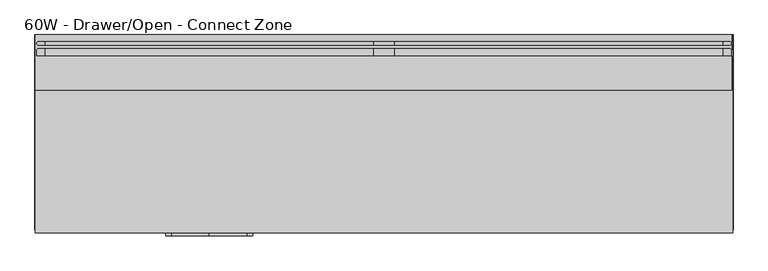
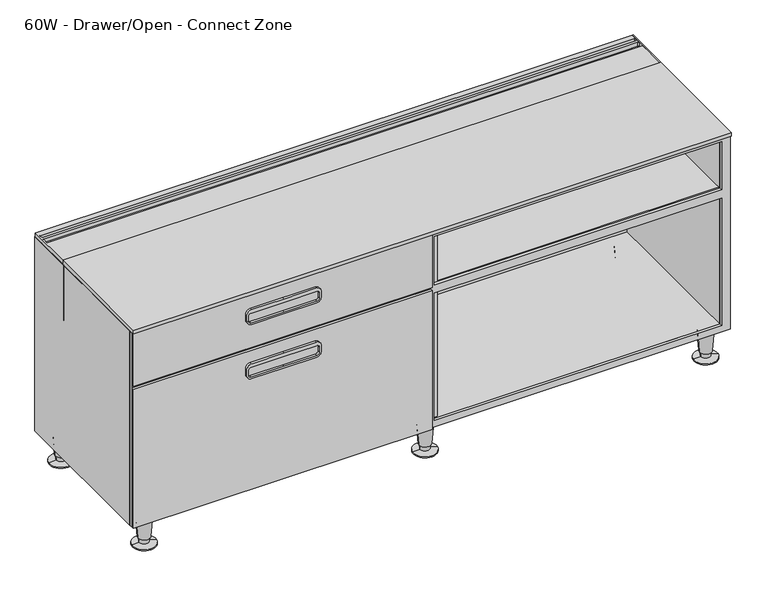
"""IFC4 building model written with IfcOpenShell, lengths in millimetres: furniture geometry, Steelcase - C Scape - Low Storage - 1.5 High - 60W and 72W : 60W - Drawer/Open - Connect Zone."""

from ifc_helpers import new_model, si_unit, point, frame, frame_2d, origin, place, context, project, spatial, polyline, circle_curve, trimmed, segment, composite_curve, outline, extrude, faceted_brep, source, transform, mapped, element, save
from ifc_brep_helpers import plane_surface, cylinder_surface, revolved_surface, advanced_brep


def furniture_60w_drawer_open_connect_zone_89e34813(model_context):
    return source(origin(), model_context, "Body", "SolidModel", [
        advanced_brep(
        [(-302.0173728, -29.5783496, 599.4426137), (-302.0173728, -29.5783496, 458.7801967), (-302.0173728, -9.5194193, 458.7801967), (-302.0173728, -9.5194193, 466.2604814), (-302.0173728, 0.0055807, 466.2604814), (-302.0173728, 0.0055807, 599.4426137), (-302.0173728, -17.0388453, 599.4426137), (-302.0173728, -17.0388453, 609.5926846), (-302.0173728, -20.5059237, 609.5926846), (-302.0173728, -20.5059237, 599.4426137), (-302.0173728, -46.4703418, 599.4426137), (-302.0173728, -32.0458511, 599.4426137), (-302.0173728, -32.0458511, 609.5926846), (-302.0173728, -46.4703418, 609.5926846), (-304.8013237, -120.6444193, 599.4426137), (-304.8013237, -120.6444193, 609.5926846), (-304.8013237, 0.0055807, 609.5926846), (-304.8013237, 0.0055807, 466.2604814), (-304.8013237, -9.5194193, 466.2604814), (-304.8013237, -9.5194193, 458.7801967), (-304.8013237, -29.5783496, 458.7801967), (-304.8013237, -29.5783496, 599.4426137), (-299.2329352, -23.2903613, 599.4426137), (1212.1507358, -23.2903613, 599.4426137), (1215.1272317, -20.3138654, 599.4426137), (1215.1473728, -32.274699, 599.4426137), (1212.4308823, -29.5783496, 599.4426137), (-299.5498713, -29.5783496, 599.4426137), (1215.1473728, -46.4703418, 599.4426137), (1215.1473728, -120.5681445, 599.4426137), (-299.3205978, -14.3420703, 599.4426137), (1215.1473728, 0.0, 599.4426137), (1215.1473728, -17.0388453, 599.4426137), (1212.4505978, -14.3420703, 599.4426137), (1215.1473728, 0.0055807, 609.5926846), (1215.1473728, -120.5681445, 609.5926846), (1215.1473728, -46.4703418, 609.5926846), (-299.5498713, -29.5783496, 609.5926846), (1212.4308823, -29.5783496, 609.5926846), (1215.1272317, -32.274699, 609.5926846), (1215.1473728, -20.3138654, 609.5926846), (1212.1507358, -23.2903613, 609.5926846), (-299.2329352, -23.2903613, 609.5926846), (-299.3205978, -14.3420703, 609.5926846), (1212.4505978, -14.3420703, 609.5926846), (1215.1473728, -17.0388453, 609.5926846)],
        [
            (0, 1),
            (1, 2),
            (2, 3),
            (3, 4),
            (4, 5),
            (5, 6),
            (6, 7),
            (7, 8),
            (8, 9),
            (9, 0),
            (10, 11),
            (11, 12),
            (12, 13),
            (13, 10),
            (14, 15),
            (15, 16),
            (16, 17),
            (17, 18),
            (18, 19),
            (19, 20),
            (20, 21),
            (21, 14),
            (21, 0),
            (9, 22, circle_curve(frame((-299.2329352, -20.5059237, 599.4426137), z_axis=(0.0, 0.0, 1.0), x_axis=(1.0, 0.0, 0.0)), 2.7844376)),
            (22, 23),
            (23, 24, circle_curve(frame((1212.1507358, -20.3138654, 599.4426137), z_axis=(0.0, 0.0, 1.0), x_axis=(1.0, 0.0, 0.0)), 2.9764959)),
            (24, 25),
            (25, 26, circle_curve(frame((1212.4308823, -32.274699, 599.4426137), z_axis=(0.0, 0.0, 1.0), x_axis=(1.0, 0.0, 0.0)), 2.6963494)),
            (26, 27),
            (27, 11, circle_curve(frame((-299.5498713, -32.0458511, 599.4426137), z_axis=(0.0, 0.0, 1.0), x_axis=(1.0, 0.0, 0.0)), 2.4675015)),
            (10, 28),
            (28, 29),
            (29, 14),
            (30, 6, circle_curve(frame((-299.3205978, -17.0388453, 599.4426137), z_axis=(0.0, 0.0, 1.0), x_axis=(1.0, 0.0, 0.0)), 2.696775)),
            (5, 31),
            (31, 32),
            (32, 33, circle_curve(frame((1212.4505978, -17.0388453, 599.4426137), z_axis=(0.0, 0.0, 1.0), x_axis=(1.0, 0.0, 0.0)), 2.696775)),
            (33, 30),
            (20, 1),
            (19, 2),
            (18, 3),
            (17, 4),
            (16, 34),
            (34, 31),
            (15, 35),
            (35, 36),
            (36, 13),
            (12, 37, circle_curve(frame((-299.5498713, -32.0458511, 609.5926846), z_axis=(0.0, 0.0, -1.0), x_axis=(1.0, 0.0, 0.0)), 2.4675015)),
            (37, 38),
            (38, 39, circle_curve(frame((1212.4308823, -32.274699, 609.5926846), z_axis=(0.0, 0.0, -1.0), x_axis=(1.0, 0.0, 0.0)), 2.6963494)),
            (39, 40),
            (40, 41, circle_curve(frame((1212.1507358, -20.3138654, 609.5926846), z_axis=(0.0, 0.0, -1.0), x_axis=(1.0, 0.0, 0.0)), 2.9764959)),
            (41, 42),
            (42, 8, circle_curve(frame((-299.2329352, -20.5059237, 609.5926846), z_axis=(0.0, 0.0, -1.0), x_axis=(1.0, 0.0, 0.0)), 2.7844376)),
            (7, 43, circle_curve(frame((-299.3205978, -17.0388453, 609.5926846), z_axis=(0.0, 0.0, -1.0), x_axis=(1.0, 0.0, 0.0)), 2.696775)),
            (43, 44),
            (44, 45, circle_curve(frame((1212.4505978, -17.0388453, 609.5926846), z_axis=(0.0, 0.0, -1.0), x_axis=(1.0, 0.0, 0.0)), 2.696775)),
            (45, 34),
            (29, 35),
            (38, 26),
            (25, 39),
            (24, 40),
            (23, 41),
            (22, 42),
            (27, 37),
            (36, 28),
            (43, 30),
            (33, 44),
            (32, 45),
        ],
        [
            plane_surface(frame((-302.0173728, -120.6444193, 599.4426137), z_axis=(1.0, 0.0, 0.0), x_axis=(0.0, 1.0, 0.0))),
            plane_surface(frame((-304.8013237, -120.6444193, 599.4426137), z_axis=(-1.0, 0.0, 0.0), x_axis=(0.0, -1.0, 0.0))),
            plane_surface(frame((-302.0173728, -120.6444193, 599.4426137), z_axis=(0.0, 0.0, -1.0), x_axis=(-1.0, 0.0, 0.0))),
            plane_surface(frame((-302.0173728, -29.5783496, 599.4426137), z_axis=(0.0, -1.0, 0.0), x_axis=(-1.0, 0.0, 0.0))),
            plane_surface(frame((-302.0173728, -29.5783496, 458.7801967), z_axis=(0.0, 0.0, -1.0), x_axis=(-1.0, 0.0, 0.0))),
            plane_surface(frame((-302.0173728, -9.5194193, 458.7801967), z_axis=(0.0, 1.0, 0.0), x_axis=(-1.0, 0.0, 0.0))),
            plane_surface(frame((-302.0173728, -9.5194193, 466.2604814), z_axis=(0.0, 0.0, -1.0), x_axis=(-1.0, 0.0, 0.0))),
            plane_surface(frame((-302.0173728, 0.0055807, 466.2604814), z_axis=(0.0, 1.0, 0.0), x_axis=(-1.0, 0.0, 0.0))),
            plane_surface(frame((-302.0173728, 0.0055807, 609.5926846), z_axis=(0.0, 0.0, 1.0), x_axis=(-1.0, 0.0, 0.0))),
            plane_surface(frame((-302.0173728, -120.6444193, 609.5926846), z_axis=(0.0, -1.0, 0.0), x_axis=(-1.0, 0.0, 0.0))),
            revolved_surface(polyline([(1215.1272316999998, -32.274699, 599.4426137), (1215.1272316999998, -32.274699, 609.5926846)]), (1212.4308823, -32.274699, 599.4426137), (0.0, 0.0, -1.0)),
            plane_surface(frame((1215.1473728, -32.274699, 609.5926846), z_axis=(1.0, 0.0, 0.0), x_axis=(0.0, 0.0, -1.0))),
            revolved_surface(polyline([(1215.1272316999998, -20.3138654, 599.4426137), (1215.1272316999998, -20.3138654, 609.5926846)]), (1212.1507358, -20.3138654, 599.4426137), (0.0, 0.0, -1.0)),
            plane_surface(frame((1212.1507358, -23.2903613, 609.5926846), z_axis=(0.0, 1.0, 0.0), x_axis=(0.0, 0.0, -1.0))),
            revolved_surface(polyline([(-296.4484976, -20.5059237, 599.4426137), (-296.4484976, -20.5059237, 609.5926846)]), (-299.2329352, -20.5059237, 599.4426137), (0.0, 0.0, -1.0)),
            revolved_surface(polyline([(-297.0823698, -32.0458511, 599.4426137), (-297.0823698, -32.0458511, 609.5926846)]), (-299.5498713, -32.0458511, 599.4426137), (0.0, 0.0, -1.0)),
            plane_surface(frame((-299.5498713, -29.5783496, 609.5926846), z_axis=(0.0, -1.0, 0.0), x_axis=(0.0, 0.0, -1.0))),
            plane_surface(frame((1215.1473728, -46.4703418, 609.5926846), z_axis=(0.0, 1.0, 0.0), x_axis=(0.0, 0.0, -1.0))),
            plane_surface(frame((1215.1473728, -120.5681445, 609.5926846), z_axis=(1.0, 0.0, 0.0), x_axis=(0.0, 0.0, -1.0))),
            plane_surface(frame((-299.3205978, -14.3420703, 609.5926846), z_axis=(0.0, -1.0, 0.0), x_axis=(0.0, 0.0, -1.0))),
            revolved_surface(polyline([(1215.1473727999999, -17.0388453, 599.4426137), (1215.1473727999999, -17.0388453, 609.5926846)]), (1212.4505978, -17.0388453, 41.6222656), (0.0, 0.0, -1.0)),
            plane_surface(frame((1215.1473728, -17.0388453, 609.5926846), z_axis=(1.0, 0.0, 0.0), x_axis=(0.0, 0.0, -1.0))),
            revolved_surface(polyline([(-296.62382279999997, -17.0388453, 599.4426137), (-296.62382279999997, -17.0388453, 609.5926846)]), (-299.3205978, -17.0388453, 41.6222656), (0.0, 0.0, -1.0)),
        ],
        [
            (0, [[1, 2, 3, 4, 5, 6, 7, 8, 9, 10]]),
            (0, [[11, 12, 13, 14]]),
            (1, [[15, 16, 17, 18, 19, 20, 21, 22]]),
            (2, [[-22, 23, -10, 24, 25, 26, 27, 28, 29, 30, -11, 31, 32, 33]]),
            (2, [[34, -6, 35, 36, 37, 38]]),
            (3, [[-1, -23, -21, 39]]),
            (4, [[-2, -39, -20, 40]]),
            (5, [[-3, -40, -19, 41]]),
            (6, [[-4, -41, -18, 42]]),
            (7, [[-17, 43, 44, -35, -5, -42]]),
            (8, [[-43, -16, 45, 46, 47, -13, 48, 49, 50, 51, 52, 53, 54, -8, 55, 56, 57, 58]]),
            (9, [[-45, -15, -33, 59]]),
            (10, [[-50, 60, -28, 61]]),
            (11, [[-51, -61, -27, 62]]),
            (12, [[-52, -62, -26, 63]]),
            (13, [[-53, -63, -25, 64]]),
            (14, [[-54, -64, -24, -9]]),
            (15, [[-48, -12, -30, 65]]),
            (16, [[-49, -65, -29, -60]]),
            (17, [[-47, 66, -31, -14]]),
            (18, [[-46, -59, -32, -66]]),
            (19, [[-56, 67, -38, 68]]),
            (20, [[-57, -68, -37, 69]]),
            (21, [[-58, -69, -36, -44]]),
            (22, [[-55, -7, -34, -67]]),
        ],
    ),
        extrude(outline(polyline([(458.7240097, 572.1950189), (432.6382043, 572.1950189), (432.6382043, 449.8975), (432.6382043, 340.9349811), (458.7240097, 340.9349811), (458.7240097, -304.8013237), (92.7100024, -304.8013237), (92.7100024, 1217.93), (458.7240097, 1217.93), (458.7240097, 572.1950189)])), frame((0.0, -9.5194193, 0.0), z_axis=(0.0, 1.0, 0.0), x_axis=(0.0, 0.0, 1.0)), (0.0, 0.0, 1.0), 9.525),
        extrude(outline(polyline([(-120.6444193, 609.6), (-120.6444193, 450.8499879), (-126.9863574, 450.8499879), (-126.9863574, 599.4499291), (-433.07, 599.4499291), (-433.07, 609.6), (-120.6444193, 609.6)])), frame((-304.8013237, 0.0, 0.0), z_axis=(1.0, 0.0, 0.0), x_axis=(0.0, 1.0, 0.0)), (0.0, 0.0, 1.0), 1522.7313237),
        extrude(outline(polyline([(-120.6444193, 599.4426137), (-120.6444193, 609.5926846), (0.0055807, 609.5926846), (0.0055807, 466.2604814), (-9.5194193, 466.2604814), (-9.5194193, 458.7801967), (-29.5783496, 458.7801967), (-29.5783496, 599.4426137), (-120.6444193, 599.4426137)])), frame((1215.1473728, 0.0, 0.0), z_axis=(1.0, 0.0, 0.0), x_axis=(0.0, 1.0, 0.0)), (0.0, 0.0, 1.0), 2.7826272),
        extrude(outline(polyline([(76.1508625, -305.435), (76.1508625, 1218.565), (599.4400097, 1218.565), (599.4400097, 457.132594), (599.4400097, -305.435), (76.1508625, -305.435)]), holes=[polyline([(92.7100024, 447.6410976), (92.7100024, -283.4617676), (436.8800097, -283.4617676), (436.8800097, 447.6410976), (92.7100024, 447.6410976)]), polyline([(588.9625, -283.4617676), (588.9625, 447.6410976), (458.7240097, 447.6410976), (458.7240097, -283.4617676), (588.9625, -283.4617676)]), polyline([(436.8800097, 465.4889024), (436.8800097, 1196.5917676), (92.7100024, 1196.5917676), (92.7100024, 465.4889024), (436.8800097, 465.4889024)]), polyline([(588.9625, 1196.5917676), (458.7240097, 1196.5917676), (458.7240097, 465.4889024), (588.9625, 465.4889024), (588.9625, 1196.5917676)])]), frame((0.0, -426.7186111, 0.0), z_axis=(0.0, 1.0, 0.0), x_axis=(0.0, 0.0, 1.0)), (0.0, 0.0, 1.0), 7.3648883),
        extrude(outline(polyline([(1218.565, 0.0), (1218.565, -419.3537227), (1196.5917676, -419.3537227), (1196.5917676, 0.0), (1218.565, 0.0)])), frame((0.0, 0.0, 76.2), z_axis=(0.0, 0.0, 1.0), x_axis=(1.0, 0.0, 0.0)), (0.0, 0.0, 1.0), 523.2400097),
        extrude(outline(polyline([(-283.4630912, -419.3537227), (-305.435, -419.3537227), (-305.435, 0.0), (-283.4630912, 0.0), (-283.4630912, -419.3537227)])), frame((0.0, 0.0, 76.2), z_axis=(0.0, 0.0, 1.0), x_axis=(1.0, 0.0, 0.0)), (0.0, 0.0, 1.0), 523.2400097),
        extrude(outline(polyline([(434.0224874, -415.2912402), (434.0224874, -9.525), (479.1075126, -9.525), (479.1075126, -415.2912402), (434.0224874, -415.2912402)])), frame((0.0, 0.0, 76.2), z_axis=(0.0, 0.0, 1.0), x_axis=(1.0, 0.0, 0.0)), (0.0, 0.0, 1.0), 523.2400097),
        extrude(outline(polyline([(479.1075126, -9.525), (1196.5917676, -9.525), (1196.5917676, -415.2912402), (479.1075126, -415.2912402), (479.1075126, -9.525)])), frame((0.0, 0.0, 436.8800097), z_axis=(0.0, 0.0, 1.0), x_axis=(1.0, 0.0, 0.0)), (0.0, 0.0, 1.0), 21.844),
        extrude(outline(polyline([(434.0224874, -415.2912402), (-283.4617676, -415.2912402), (-283.4617676, -9.525), (434.0224874, -9.525), (434.0224874, -415.2912402)])), frame((0.0, 0.0, 436.8800097), z_axis=(0.0, 0.0, 1.0), x_axis=(1.0, 0.0, 0.0)), (0.0, 0.0, 1.0), 21.844),
        extrude(outline(composite_curve([segment(polyline([(419.0999879, 157.4804108), (419.0999879, 75.247655), (419.0999879, -6.9851007)]), True, "CONTINUOUS"), segment(trimmed(circle_curve(frame_2d((406.3999879, -6.9851007)), 12.7), [point((419.0999879, -6.9851007))], [point((406.3999879, -19.6851007))], False, "CARTESIAN"), True, "CONTINUOUS"), segment(polyline([(406.3999879, -19.6851007), (391.795017, -19.6851007)]), True, "CONTINUOUS"), segment(trimmed(circle_curve(frame_2d((391.795017, -6.9851007)), 12.7), [point((391.795017, -19.6851007))], [point((379.095017, -6.9851007))], False, "CARTESIAN"), True, "CONTINUOUS"), segment(polyline([(379.095017, -6.9851007), (379.095017, 75.247655), (379.095017, 157.4804108)]), True, "CONTINUOUS"), segment(trimmed(circle_curve(frame_2d((391.795017, 157.4804108)), 12.7), [point((379.095017, 157.4804108))], [point((391.795017, 170.1804108))], False, "CARTESIAN"), True, "CONTINUOUS"), segment(polyline([(391.795017, 170.1804108), (406.3999879, 170.1804108)]), True, "CONTINUOUS"), segment(trimmed(circle_curve(frame_2d((406.3999879, 157.4804108)), 12.7), [point((406.3999879, 170.1804108))], [point((419.0999879, 157.4804108))], False, "CARTESIAN"), True, "CONTINUOUS")], self_intersect=False), holes=[composite_curve([segment(polyline([(402.9710063, 165.3527985), (390.2709942, 165.3527985)]), True, "CONTINUOUS"), segment(trimmed(circle_curve(frame_2d((390.2709942, 159.0027985)), 6.35), [point((390.2709942, 165.3527985))], [point((383.9209942, 159.0027985))], True, "CARTESIAN"), True, "CONTINUOUS"), segment(polyline([(383.9209942, 159.0027985), (383.9209942, 75.247655), (383.9209942, -8.5074884)]), True, "CONTINUOUS"), segment(trimmed(circle_curve(frame_2d((390.2709942, -8.5074884)), 6.35), [point((383.9209942, -8.5074884))], [point((390.2709942, -14.8574884))], True, "CARTESIAN"), True, "CONTINUOUS"), segment(polyline([(390.2709942, -14.8574884), (402.9710063, -14.8574884)]), True, "CONTINUOUS"), segment(trimmed(circle_curve(frame_2d((402.9710063, -8.5074884)), 6.35), [point((402.9710063, -14.8574884))], [point((409.3210063, -8.5074884))], True, "CARTESIAN"), True, "CONTINUOUS"), segment(polyline([(409.3210063, -8.5074884), (409.3210063, 75.247655), (409.3210063, 159.0027985)]), True, "CONTINUOUS"), segment(trimmed(circle_curve(frame_2d((402.9710063, 159.0027985)), 6.35), [point((409.3210063, 159.0027985))], [point((402.9710063, 165.3527985))], True, "CARTESIAN"), True, "CONTINUOUS")], self_intersect=False)]), frame((0.0, -439.42, 0.0), z_axis=(0.0, 1.0, 0.0), x_axis=(0.0, 0.0, 1.0)), (0.0, 0.0, 1.0), 6.35),
        extrude(outline(polyline([(455.9303101, -426.7186111), (455.9303101, -433.07), (-304.8, -433.07), (-304.8, -426.7186111), (455.9303101, -426.7186111)])), frame((0.0, 0.0, 458.7240097), z_axis=(0.0, 0.0, 1.0), x_axis=(1.0, 0.0, 0.0)), (0.0, 0.0, 1.0), 140.716),
        faceted_brep([(-283.4617676, -419.3537227, 92.7100024), (1196.5917676, -419.3537227, 92.7100024), (1196.5917676, -9.525, 92.7100024), (479.1075126, -9.525, 92.7100024), (479.1075126, -415.2912402, 92.7100024), (434.0224874, -415.2912402, 92.7100024), (434.0224874, -9.525, 92.7100024), (-283.4617676, -9.525, 92.7100024), (1218.565, 0.0, 76.2), (1218.565, -419.3537227, 76.2), (-305.435, -419.3537227, 76.2), (-305.435, 0.0, 76.2), (-283.4630912, -419.3537227, 599.4400097), (-305.435, -419.3537227, 599.4400097), (1218.565, -419.3537227, 599.4400097), (1196.5917676, -419.3537227, 599.4400097), (-305.435, 0.0, 599.4400097), (1218.565, 0.0, 599.4400097), (-283.4630912, -9.525, 599.4400097), (434.0224874, -9.525, 599.4400097), (434.0224874, -415.2912402, 599.4400097), (479.1075126, -415.2912402, 599.4400097), (479.1075126, -9.525, 599.4400097), (1196.5917676, -9.525, 599.4400097)], [[[0, 1, 2, 3, 4, 5, 6, 7]], [[8, 9, 10, 11]], [[1, 0, 12, 13, 10, 9, 14, 15]], [[8, 11, 16, 17]], [[16, 13, 12, 18, 19, 20, 21, 22, 23, 15, 14, 17]], [[13, 16, 11, 10]], [[18, 12, 0, 7]], [[19, 18, 7, 6]], [[20, 19, 6, 5]], [[22, 21, 4, 3]], [[23, 22, 3, 2]], [[15, 23, 2, 1]], [[17, 14, 9, 8]], [[21, 20, 5, 4]]]),
        extrude(outline(composite_curve([segment(polyline([(565.1499879, 157.4804108), (565.1499879, 75.247655), (565.1499879, -6.9851007)]), True, "CONTINUOUS"), segment(trimmed(circle_curve(frame_2d((552.4499879, -6.9851007)), 12.7), [point((565.1499879, -6.9851007))], [point((552.4499879, -19.6851007))], False, "CARTESIAN"), True, "CONTINUOUS"), segment(polyline([(552.4499879, -19.6851007), (537.845017, -19.6851007)]), True, "CONTINUOUS"), segment(trimmed(circle_curve(frame_2d((537.845017, -6.9851007)), 12.7), [point((537.845017, -19.6851007))], [point((525.145017, -6.9851007))], False, "CARTESIAN"), True, "CONTINUOUS"), segment(polyline([(525.145017, -6.9851007), (525.145017, 75.247655), (525.145017, 157.4804108)]), True, "CONTINUOUS"), segment(trimmed(circle_curve(frame_2d((537.845017, 157.4804108)), 12.7), [point((525.145017, 157.4804108))], [point((537.845017, 170.1804108))], False, "CARTESIAN"), True, "CONTINUOUS"), segment(polyline([(537.845017, 170.1804108), (552.4499879, 170.1804108)]), True, "CONTINUOUS"), segment(trimmed(circle_curve(frame_2d((552.4499879, 157.4804108)), 12.7), [point((552.4499879, 170.1804108))], [point((565.1499879, 157.4804108))], False, "CARTESIAN"), True, "CONTINUOUS")], self_intersect=False), holes=[composite_curve([segment(polyline([(549.0210063, 165.3527985), (536.3209942, 165.3527985)]), True, "CONTINUOUS"), segment(trimmed(circle_curve(frame_2d((536.3209942, 159.0027985)), 6.35), [point((536.3209942, 165.3527985))], [point((529.9709942, 159.0027985))], True, "CARTESIAN"), True, "CONTINUOUS"), segment(polyline([(529.9709942, 159.0027985), (529.9709942, 75.247655), (529.9709942, -8.5074884)]), True, "CONTINUOUS"), segment(trimmed(circle_curve(frame_2d((536.3209942, -8.5074884)), 6.35), [point((529.9709942, -8.5074884))], [point((536.3209942, -14.8574884))], True, "CARTESIAN"), True, "CONTINUOUS"), segment(polyline([(536.3209942, -14.8574884), (549.0210063, -14.8574884)]), True, "CONTINUOUS"), segment(trimmed(circle_curve(frame_2d((549.0210063, -8.5074884)), 6.35), [point((549.0210063, -14.8574884))], [point((555.3710063, -8.5074884))], True, "CARTESIAN"), True, "CONTINUOUS"), segment(polyline([(555.3710063, -8.5074884), (555.3710063, 75.247655), (555.3710063, 159.0027985)]), True, "CONTINUOUS"), segment(trimmed(circle_curve(frame_2d((549.0210063, 159.0027985)), 6.35), [point((555.3710063, 159.0027985))], [point((549.0210063, 165.3527985))], True, "CARTESIAN"), True, "CONTINUOUS")], self_intersect=False)]), frame((0.0, -439.42, 0.0), z_axis=(0.0, 1.0, 0.0), x_axis=(0.0, 0.0, 1.0)), (0.0, 0.0, 1.0), 6.35),
        extrude(outline(polyline([(455.9303101, -426.7186111), (455.9303101, -433.07), (-304.8, -433.07), (-304.8, -426.7186111), (455.9303101, -426.7186111)])), frame((0.0, 0.0, 76.2), z_axis=(0.0, 0.0, 1.0), x_axis=(1.0, 0.0, 0.0)), (0.0, 0.0, 1.0), 374.6500097),
        advanced_brep(
        [(427.4539515, -29.9489775, 0.0), (485.6760485, -38.8569507, 0.0), (456.565, -34.4029641, 0.0), (427.4539515, -29.9489775, 2.5119506), (485.6760485, -38.8569507, 2.5119506), (444.802835, -32.6033544, 5.7545598), (468.327165, -36.2025738, 5.7545598), (444.1140655, -32.4979728, 19.05), (469.0159345, -36.3079555, 19.05), (441.6844786, -32.1262463, 19.05), (471.4455214, -36.6796819, 19.05), (437.7341305, -31.5218435, 76.2), (475.3958695, -37.2840847, 76.2), (456.565, -34.4029641, 76.2)],
        [
            (0, 1, circle_curve(frame((456.565, -34.4029641, 0.0), z_axis=(0.0, 0.0, -1.0), x_axis=(0.0, -1.0, 0.0)), 29.4498071)),
            (1, 2),
            (2, 0),
            (1, 0, circle_curve(frame((456.565, -34.4029641, 0.0), z_axis=(0.0, 0.0, -1.0), x_axis=(0.0, -1.0, 0.0)), 29.4498071)),
            (3, 4, circle_curve(frame((456.565, -34.4029641, 2.5119506), z_axis=(0.0, 0.0, -1.0), x_axis=(0.0, -1.0, 0.0)), 29.4498071)),
            (4, 1),
            (0, 3),
            (4, 3, circle_curve(frame((456.565, -34.4029641, 2.5119506), z_axis=(0.0, 0.0, -1.0), x_axis=(0.0, -1.0, 0.0)), 29.4498071)),
            (5, 6, circle_curve(frame((456.565, -34.4029641, 5.7545598), z_axis=(0.0, 0.0, -1.0), x_axis=(0.0, -1.0, 0.0)), 11.8990387)),
            (6, 4),
            (3, 5),
            (6, 5, circle_curve(frame((456.565, -34.4029641, 5.7545598), z_axis=(0.0, 0.0, -1.0), x_axis=(0.0, -1.0, 0.0)), 11.8990387)),
            (7, 8, circle_curve(frame((456.565, -34.4029641, 19.05), z_axis=(0.0, 0.0, -1.0), x_axis=(0.0, -1.0, 0.0)), 12.5958232)),
            (8, 6),
            (5, 7),
            (8, 7, circle_curve(frame((456.565, -34.4029641, 19.05), z_axis=(0.0, 0.0, -1.0), x_axis=(0.0, -1.0, 0.0)), 12.5958232)),
            (9, 10, circle_curve(frame((456.565, -34.4029641, 19.05), z_axis=(0.0, 0.0, -1.0), x_axis=(0.0, -1.0, 0.0)), 15.0536827)),
            (10, 8),
            (7, 9),
            (10, 9, circle_curve(frame((456.565, -34.4029641, 19.05), z_axis=(0.0, 0.0, -1.0), x_axis=(0.0, -1.0, 0.0)), 15.0536827)),
            (11, 12, circle_curve(frame((456.565, -34.4029641, 76.2), z_axis=(0.0, 0.0, -1.0), x_axis=(0.0, -1.0, 0.0)), 19.05)),
            (12, 10),
            (9, 11),
            (12, 11, circle_curve(frame((456.565, -34.4029641, 76.2), z_axis=(0.0, 0.0, -1.0), x_axis=(0.0, -1.0, 0.0)), 19.05)),
            (13, 12),
            (11, 13),
        ],
        [
            plane_surface(frame((456.565, -34.4029641, 0.0), z_axis=(0.0, 0.0, -1.0), x_axis=(0.0, -1.0, 0.0))),
            cylinder_surface(frame((456.565, -34.4029641, 25.4), z_axis=(0.0, 0.0, 1.0), x_axis=(0.0, -1.0, 0.0)), 29.4498071),
            revolved_surface(polyline([(456.565, -63.8527712, 2.5119506), (456.565, -46.3020028, 5.7545598)]), (456.565, -34.4029641, 25.4), (0.0, 0.0, 1.0)),
            revolved_surface(polyline([(456.565, -46.3020028, 5.7545598), (456.565, -46.9987873, 19.05)]), (456.565, -34.4029641, 25.4), (0.0, 0.0, 1.0)),
            plane_surface(frame((456.565, -34.4029641, 19.05), z_axis=(0.0, 0.0, -1.0), x_axis=(0.0, -1.0, 0.0))),
            revolved_surface(polyline([(456.565, -49.4566468, 19.05), (456.565, -53.4529641, 76.2)]), (456.565, -34.4029641, 25.4), (0.0, 0.0, 1.0)),
            plane_surface(frame((456.565, -34.4029641, 76.2), z_axis=(0.0, 0.0, 1.0), x_axis=(0.0, -1.0, 0.0))),
        ],
        [
            (0, [[1, 2, 3]]),
            (0, [[4, -3, -2]]),
            (1, [[5, 6, -1, 7]]),
            (1, [[8, -7, -4, -6]]),
            (2, [[9, 10, -5, 11]]),
            (2, [[12, -11, -8, -10]]),
            (3, [[13, 14, -9, 15]]),
            (3, [[16, -15, -12, -14]]),
            (4, [[17, 18, -13, 19]]),
            (4, [[20, -19, -16, -18]]),
            (5, [[21, 22, -17, 23]]),
            (5, [[24, -23, -20, -22]]),
            (6, [[25, -21, 26]]),
            (6, [[-26, -24, -25]]),
        ],
    ),
        advanced_brep(
        [(427.4539515, -395.5974102, 0.0), (485.6760485, -404.5053834, 0.0), (456.565, -400.0513968, 0.0), (427.4539515, -395.5974102, 2.5119506), (485.6760485, -404.5053834, 2.5119506), (444.802835, -398.2517871, 5.7545598), (468.327165, -401.8510065, 5.7545598), (444.1140655, -398.1464055, 19.05), (469.0159345, -401.9563882, 19.05), (441.6844786, -397.774679, 19.05), (471.4455214, -402.3281146, 19.05), (437.7341305, -397.1702762, 76.2), (475.3958695, -402.9325174, 76.2), (456.565, -400.0513968, 76.2)],
        [
            (0, 1, circle_curve(frame((456.565, -400.0513968, 0.0), z_axis=(0.0, 0.0, -1.0), x_axis=(0.0, -1.0, 0.0)), 29.4498071)),
            (1, 2),
            (2, 0),
            (1, 0, circle_curve(frame((456.565, -400.0513968, 0.0), z_axis=(0.0, 0.0, -1.0), x_axis=(0.0, -1.0, 0.0)), 29.4498071)),
            (3, 4, circle_curve(frame((456.565, -400.0513968, 2.5119506), z_axis=(0.0, 0.0, -1.0), x_axis=(0.0, -1.0, 0.0)), 29.4498071)),
            (4, 1),
            (0, 3),
            (4, 3, circle_curve(frame((456.565, -400.0513968, 2.5119506), z_axis=(0.0, 0.0, -1.0), x_axis=(0.0, -1.0, 0.0)), 29.4498071)),
            (5, 6, circle_curve(frame((456.565, -400.0513968, 5.7545598), z_axis=(0.0, 0.0, -1.0), x_axis=(0.0, -1.0, 0.0)), 11.8990387)),
            (6, 4),
            (3, 5),
            (6, 5, circle_curve(frame((456.565, -400.0513968, 5.7545598), z_axis=(0.0, 0.0, -1.0), x_axis=(0.0, -1.0, 0.0)), 11.8990387)),
            (7, 8, circle_curve(frame((456.565, -400.0513968, 19.05), z_axis=(0.0, 0.0, -1.0), x_axis=(0.0, -1.0, 0.0)), 12.5958232)),
            (8, 6),
            (5, 7),
            (8, 7, circle_curve(frame((456.565, -400.0513968, 19.05), z_axis=(0.0, 0.0, -1.0), x_axis=(0.0, -1.0, 0.0)), 12.5958232)),
            (9, 10, circle_curve(frame((456.565, -400.0513968, 19.05), z_axis=(0.0, 0.0, -1.0), x_axis=(0.0, -1.0, 0.0)), 15.0536827)),
            (10, 8),
            (7, 9),
            (10, 9, circle_curve(frame((456.565, -400.0513968, 19.05), z_axis=(0.0, 0.0, -1.0), x_axis=(0.0, -1.0, 0.0)), 15.0536827)),
            (11, 12, circle_curve(frame((456.565, -400.0513968, 76.2), z_axis=(0.0, 0.0, -1.0), x_axis=(0.0, -1.0, 0.0)), 19.05)),
            (12, 10),
            (9, 11),
            (12, 11, circle_curve(frame((456.565, -400.0513968, 76.2), z_axis=(0.0, 0.0, -1.0), x_axis=(0.0, -1.0, 0.0)), 19.05)),
            (13, 12),
            (11, 13),
        ],
        [
            plane_surface(frame((456.565, -400.0513968, 0.0), z_axis=(0.0, 0.0, -1.0), x_axis=(0.0, -1.0, 0.0))),
            cylinder_surface(frame((456.565, -400.0513968, 25.4), z_axis=(0.0, 0.0, 1.0), x_axis=(0.0, -1.0, 0.0)), 29.4498071),
            revolved_surface(polyline([(456.565, -429.5012039, 2.5119506), (456.565, -411.9504355, 5.7545598)]), (456.565, -400.0513968, 25.4), (0.0, 0.0, 1.0)),
            revolved_surface(polyline([(456.565, -411.9504355, 5.7545598), (456.565, -412.64722, 19.05)]), (456.565, -400.0513968, 25.4), (0.0, 0.0, 1.0)),
            plane_surface(frame((456.565, -400.0513968, 19.05), z_axis=(0.0, 0.0, -1.0), x_axis=(0.0, -1.0, 0.0))),
            revolved_surface(polyline([(456.565, -415.1050795, 19.05), (456.565, -419.1013968, 76.2)]), (456.565, -400.0513968, 25.4), (0.0, 0.0, 1.0)),
            plane_surface(frame((456.565, -400.0513968, 76.2), z_axis=(0.0, 0.0, 1.0), x_axis=(0.0, -1.0, 0.0))),
        ],
        [
            (0, [[1, 2, 3]]),
            (0, [[4, -3, -2]]),
            (1, [[5, 6, -1, 7]]),
            (1, [[8, -7, -4, -6]]),
            (2, [[9, 10, -5, 11]]),
            (2, [[12, -11, -8, -10]]),
            (3, [[13, 14, -9, 15]]),
            (3, [[16, -15, -12, -14]]),
            (4, [[17, 18, -13, 19]]),
            (4, [[20, -19, -16, -18]]),
            (5, [[21, 22, -17, 23]]),
            (5, [[24, -23, -20, -22]]),
            (6, [[25, -21, 26]]),
            (6, [[-26, -24, -25]]),
        ],
    ),
        advanced_brep(
        [(1142.1075389, -29.9489775, 0.0), (1200.3296359, -38.8569507, 0.0), (1171.2185874, -34.4029641, 0.0), (1142.1075389, -29.9489775, 2.5119506), (1200.3296359, -38.8569507, 2.5119506), (1159.4564224, -32.6033544, 5.7545598), (1182.9807524, -36.2025738, 5.7545598), (1158.7676529, -32.4979728, 19.05), (1183.6695219, -36.3079555, 19.05), (1156.3380659, -32.1262463, 19.05), (1186.0991088, -36.6796819, 19.05), (1152.3877179, -31.5218435, 76.2), (1190.0494568, -37.2840847, 76.2), (1171.2185874, -34.4029641, 76.2)],
        [
            (0, 1, circle_curve(frame((1171.2185874, -34.4029641, 0.0), z_axis=(0.0, 0.0, -1.0), x_axis=(0.0, -1.0, 0.0)), 29.4498071)),
            (1, 2),
            (2, 0),
            (1, 0, circle_curve(frame((1171.2185874, -34.4029641, 0.0), z_axis=(0.0, 0.0, -1.0), x_axis=(0.0, -1.0, 0.0)), 29.4498071)),
            (3, 4, circle_curve(frame((1171.2185874, -34.4029641, 2.5119506), z_axis=(0.0, 0.0, -1.0), x_axis=(0.0, -1.0, 0.0)), 29.4498071)),
            (4, 1),
            (0, 3),
            (4, 3, circle_curve(frame((1171.2185874, -34.4029641, 2.5119506), z_axis=(0.0, 0.0, -1.0), x_axis=(0.0, -1.0, 0.0)), 29.4498071)),
            (5, 6, circle_curve(frame((1171.2185874, -34.4029641, 5.7545598), z_axis=(0.0, 0.0, -1.0), x_axis=(0.0, -1.0, 0.0)), 11.8990387)),
            (6, 4),
            (3, 5),
            (6, 5, circle_curve(frame((1171.2185874, -34.4029641, 5.7545598), z_axis=(0.0, 0.0, -1.0), x_axis=(0.0, -1.0, 0.0)), 11.8990387)),
            (7, 8, circle_curve(frame((1171.2185874, -34.4029641, 19.05), z_axis=(0.0, 0.0, -1.0), x_axis=(0.0, -1.0, 0.0)), 12.5958232)),
            (8, 6),
            (5, 7),
            (8, 7, circle_curve(frame((1171.2185874, -34.4029641, 19.05), z_axis=(0.0, 0.0, -1.0), x_axis=(0.0, -1.0, 0.0)), 12.5958232)),
            (9, 10, circle_curve(frame((1171.2185874, -34.4029641, 19.05), z_axis=(0.0, 0.0, -1.0), x_axis=(0.0, -1.0, 0.0)), 15.0536827)),
            (10, 8),
            (7, 9),
            (10, 9, circle_curve(frame((1171.2185874, -34.4029641, 19.05), z_axis=(0.0, 0.0, -1.0), x_axis=(0.0, -1.0, 0.0)), 15.0536827)),
            (11, 12, circle_curve(frame((1171.2185874, -34.4029641, 76.2), z_axis=(0.0, 0.0, -1.0), x_axis=(0.0, -1.0, 0.0)), 19.05)),
            (12, 10),
            (9, 11),
            (12, 11, circle_curve(frame((1171.2185874, -34.4029641, 76.2), z_axis=(0.0, 0.0, -1.0), x_axis=(0.0, -1.0, 0.0)), 19.05)),
            (13, 12),
            (11, 13),
        ],
        [
            plane_surface(frame((1171.2185874, -34.4029641, 0.0), z_axis=(0.0, 0.0, -1.0), x_axis=(0.0, -1.0, 0.0))),
            cylinder_surface(frame((1171.2185874, -34.4029641, 25.4), z_axis=(0.0, 0.0, 1.0), x_axis=(0.0, -1.0, 0.0)), 29.4498071),
            revolved_surface(polyline([(1171.2185874, -63.8527712, 2.5119506), (1171.2185874, -46.3020028, 5.7545598)]), (1171.2185874, -34.4029641, 25.4), (0.0, 0.0, 1.0)),
            revolved_surface(polyline([(1171.2185874, -46.3020028, 5.7545598), (1171.2185874, -46.9987873, 19.05)]), (1171.2185874, -34.4029641, 25.4), (0.0, 0.0, 1.0)),
            plane_surface(frame((1171.2185874, -34.4029641, 19.05), z_axis=(0.0, 0.0, -1.0), x_axis=(0.0, -1.0, 0.0))),
            revolved_surface(polyline([(1171.2185874, -49.4566468, 19.05), (1171.2185874, -53.4529641, 76.2)]), (1171.2185874, -34.4029641, 25.4), (0.0, 0.0, 1.0)),
            plane_surface(frame((1171.2185874, -34.4029641, 76.2), z_axis=(0.0, 0.0, 1.0), x_axis=(0.0, -1.0, 0.0))),
        ],
        [
            (0, [[1, 2, 3]]),
            (0, [[4, -3, -2]]),
            (1, [[5, 6, -1, 7]]),
            (1, [[8, -7, -4, -6]]),
            (2, [[9, 10, -5, 11]]),
            (2, [[12, -11, -8, -10]]),
            (3, [[13, 14, -9, 15]]),
            (3, [[16, -15, -12, -14]]),
            (4, [[17, 18, -13, 19]]),
            (4, [[20, -19, -16, -18]]),
            (5, [[21, 22, -17, 23]]),
            (5, [[24, -23, -20, -22]]),
            (6, [[25, -21, 26]]),
            (6, [[-26, -24, -25]]),
        ],
    ),
        advanced_brep(
        [(1142.1075389, -395.5974102, 0.0), (1200.3296359, -404.5053834, 0.0), (1171.2185874, -400.0513968, 0.0), (1142.1075389, -395.5974102, 2.5119506), (1200.3296359, -404.5053834, 2.5119506), (1159.4564224, -398.2517871, 5.7545598), (1182.9807524, -401.8510065, 5.7545598), (1158.7676529, -398.1464055, 19.05), (1183.6695219, -401.9563882, 19.05), (1156.3380659, -397.774679, 19.05), (1186.0991088, -402.3281146, 19.05), (1152.3877179, -397.1702762, 76.2), (1190.0494568, -402.9325174, 76.2), (1171.2185874, -400.0513968, 76.2)],
        [
            (0, 1, circle_curve(frame((1171.2185874, -400.0513968, 0.0), z_axis=(0.0, 0.0, -1.0), x_axis=(0.0, -1.0, 0.0)), 29.4498071)),
            (1, 2),
            (2, 0),
            (1, 0, circle_curve(frame((1171.2185874, -400.0513968, 0.0), z_axis=(0.0, 0.0, -1.0), x_axis=(0.0, -1.0, 0.0)), 29.4498071)),
            (3, 4, circle_curve(frame((1171.2185874, -400.0513968, 2.5119506), z_axis=(0.0, 0.0, -1.0), x_axis=(0.0, -1.0, 0.0)), 29.4498071)),
            (4, 1),
            (0, 3),
            (4, 3, circle_curve(frame((1171.2185874, -400.0513968, 2.5119506), z_axis=(0.0, 0.0, -1.0), x_axis=(0.0, -1.0, 0.0)), 29.4498071)),
            (5, 6, circle_curve(frame((1171.2185874, -400.0513968, 5.7545598), z_axis=(0.0, 0.0, -1.0), x_axis=(0.0, -1.0, 0.0)), 11.8990387)),
            (6, 4),
            (3, 5),
            (6, 5, circle_curve(frame((1171.2185874, -400.0513968, 5.7545598), z_axis=(0.0, 0.0, -1.0), x_axis=(0.0, -1.0, 0.0)), 11.8990387)),
            (7, 8, circle_curve(frame((1171.2185874, -400.0513968, 19.05), z_axis=(0.0, 0.0, -1.0), x_axis=(0.0, -1.0, 0.0)), 12.5958232)),
            (8, 6),
            (5, 7),
            (8, 7, circle_curve(frame((1171.2185874, -400.0513968, 19.05), z_axis=(0.0, 0.0, -1.0), x_axis=(0.0, -1.0, 0.0)), 12.5958232)),
            (9, 10, circle_curve(frame((1171.2185874, -400.0513968, 19.05), z_axis=(0.0, 0.0, -1.0), x_axis=(0.0, -1.0, 0.0)), 15.0536827)),
            (10, 8),
            (7, 9),
            (10, 9, circle_curve(frame((1171.2185874, -400.0513968, 19.05), z_axis=(0.0, 0.0, -1.0), x_axis=(0.0, -1.0, 0.0)), 15.0536827)),
            (11, 12, circle_curve(frame((1171.2185874, -400.0513968, 76.2), z_axis=(0.0, 0.0, -1.0), x_axis=(0.0, -1.0, 0.0)), 19.05)),
            (12, 10),
            (9, 11),
            (12, 11, circle_curve(frame((1171.2185874, -400.0513968, 76.2), z_axis=(0.0, 0.0, -1.0), x_axis=(0.0, -1.0, 0.0)), 19.05)),
            (13, 12),
            (11, 13),
        ],
        [
            plane_surface(frame((1171.2185874, -400.0513968, 0.0), z_axis=(0.0, 0.0, -1.0), x_axis=(0.0, -1.0, 0.0))),
            cylinder_surface(frame((1171.2185874, -400.0513968, 25.4), z_axis=(0.0, 0.0, 1.0), x_axis=(0.0, -1.0, 0.0)), 29.4498071),
            revolved_surface(polyline([(1171.2185874, -429.5012039, 2.5119506), (1171.2185874, -411.9504355, 5.7545598)]), (1171.2185874, -400.0513968, 25.4), (0.0, 0.0, 1.0)),
            revolved_surface(polyline([(1171.2185874, -411.9504355, 5.7545598), (1171.2185874, -412.64722, 19.05)]), (1171.2185874, -400.0513968, 25.4), (0.0, 0.0, 1.0)),
            plane_surface(frame((1171.2185874, -400.0513968, 19.05), z_axis=(0.0, 0.0, -1.0), x_axis=(0.0, -1.0, 0.0))),
            revolved_surface(polyline([(1171.2185874, -415.1050795, 19.05), (1171.2185874, -419.1013968, 76.2)]), (1171.2185874, -400.0513968, 25.4), (0.0, 0.0, 1.0)),
            plane_surface(frame((1171.2185874, -400.0513968, 76.2), z_axis=(0.0, 0.0, 1.0), x_axis=(0.0, -1.0, 0.0))),
        ],
        [
            (0, [[1, 2, 3]]),
            (0, [[4, -3, -2]]),
            (1, [[5, 6, -1, 7]]),
            (1, [[8, -7, -4, -6]]),
            (2, [[9, 10, -5, 11]]),
            (2, [[12, -11, -8, -10]]),
            (3, [[13, 14, -9, 15]]),
            (3, [[16, -15, -12, -14]]),
            (4, [[17, 18, -13, 19]]),
            (4, [[20, -19, -16, -18]]),
            (5, [[21, 22, -17, 23]]),
            (5, [[24, -23, -20, -22]]),
            (6, [[25, -21, 26]]),
            (6, [[-26, -24, -25]]),
        ],
    ),
        advanced_brep(
        [(-287.8113721, -395.5974102, 0.0), (-229.5892752, -404.5053834, 0.0), (-258.7003237, -400.0513968, 0.0), (-287.8113721, -395.5974102, 2.5119506), (-229.5892752, -404.5053834, 2.5119506), (-270.4624887, -398.2517871, 5.7545598), (-246.9381586, -401.8510065, 5.7545598), (-271.1512581, -398.1464055, 19.05), (-246.2493892, -401.9563882, 19.05), (-273.5808451, -397.774679, 19.05), (-243.8198022, -402.3281146, 19.05), (-277.5311931, -397.1702762, 76.2), (-239.8694542, -402.9325174, 76.2), (-258.7003237, -400.0513968, 76.2)],
        [
            (0, 1, circle_curve(frame((-258.7003237, -400.0513968, 0.0), z_axis=(0.0, 0.0, -1.0), x_axis=(0.0, -1.0, 0.0)), 29.4498071)),
            (1, 2),
            (2, 0),
            (1, 0, circle_curve(frame((-258.7003237, -400.0513968, 0.0), z_axis=(0.0, 0.0, -1.0), x_axis=(0.0, -1.0, 0.0)), 29.4498071)),
            (3, 4, circle_curve(frame((-258.7003237, -400.0513968, 2.5119506), z_axis=(0.0, 0.0, -1.0), x_axis=(0.0, -1.0, 0.0)), 29.4498071)),
            (4, 1),
            (0, 3),
            (4, 3, circle_curve(frame((-258.7003237, -400.0513968, 2.5119506), z_axis=(0.0, 0.0, -1.0), x_axis=(0.0, -1.0, 0.0)), 29.4498071)),
            (5, 6, circle_curve(frame((-258.7003237, -400.0513968, 5.7545598), z_axis=(0.0, 0.0, -1.0), x_axis=(0.0, -1.0, 0.0)), 11.8990387)),
            (6, 4),
            (3, 5),
            (6, 5, circle_curve(frame((-258.7003237, -400.0513968, 5.7545598), z_axis=(0.0, 0.0, -1.0), x_axis=(0.0, -1.0, 0.0)), 11.8990387)),
            (7, 8, circle_curve(frame((-258.7003237, -400.0513968, 19.05), z_axis=(0.0, 0.0, -1.0), x_axis=(0.0, -1.0, 0.0)), 12.5958232)),
            (8, 6),
            (5, 7),
            (8, 7, circle_curve(frame((-258.7003237, -400.0513968, 19.05), z_axis=(0.0, 0.0, -1.0), x_axis=(0.0, -1.0, 0.0)), 12.5958232)),
            (9, 10, circle_curve(frame((-258.7003237, -400.0513968, 19.05), z_axis=(0.0, 0.0, -1.0), x_axis=(0.0, -1.0, 0.0)), 15.0536827)),
            (10, 8),
            (7, 9),
            (10, 9, circle_curve(frame((-258.7003237, -400.0513968, 19.05), z_axis=(0.0, 0.0, -1.0), x_axis=(0.0, -1.0, 0.0)), 15.0536827)),
            (11, 12, circle_curve(frame((-258.7003237, -400.0513968, 76.2), z_axis=(0.0, 0.0, -1.0), x_axis=(0.0, -1.0, 0.0)), 19.05)),
            (12, 10),
            (9, 11),
            (12, 11, circle_curve(frame((-258.7003237, -400.0513968, 76.2), z_axis=(0.0, 0.0, -1.0), x_axis=(0.0, -1.0, 0.0)), 19.05)),
            (13, 12),
            (11, 13),
        ],
        [
            plane_surface(frame((-258.7003237, -400.0513968, 0.0), z_axis=(0.0, 0.0, -1.0), x_axis=(0.0, -1.0, 0.0))),
            cylinder_surface(frame((-258.7003237, -400.0513968, 25.4), z_axis=(0.0, 0.0, 1.0), x_axis=(0.0, -1.0, 0.0)), 29.4498071),
            revolved_surface(polyline([(-258.7003237, -429.5012039, 2.5119506), (-258.7003237, -411.9504355, 5.7545598)]), (-258.7003237, -400.0513968, 25.4), (0.0, 0.0, 1.0)),
            revolved_surface(polyline([(-258.7003237, -411.9504355, 5.7545598), (-258.7003237, -412.64722, 19.05)]), (-258.7003237, -400.0513968, 25.4), (0.0, 0.0, 1.0)),
            plane_surface(frame((-258.7003237, -400.0513968, 19.05), z_axis=(0.0, 0.0, -1.0), x_axis=(0.0, -1.0, 0.0))),
            revolved_surface(polyline([(-258.7003237, -415.1050795, 19.05), (-258.7003237, -419.1013968, 76.2)]), (-258.7003237, -400.0513968, 25.4), (0.0, 0.0, 1.0)),
            plane_surface(frame((-258.7003237, -400.0513968, 76.2), z_axis=(0.0, 0.0, 1.0), x_axis=(0.0, -1.0, 0.0))),
        ],
        [
            (0, [[1, 2, 3]]),
            (0, [[4, -3, -2]]),
            (1, [[5, 6, -1, 7]]),
            (1, [[8, -7, -4, -6]]),
            (2, [[9, 10, -5, 11]]),
            (2, [[12, -11, -8, -10]]),
            (3, [[13, 14, -9, 15]]),
            (3, [[16, -15, -12, -14]]),
            (4, [[17, 18, -13, 19]]),
            (4, [[20, -19, -16, -18]]),
            (5, [[21, 22, -17, 23]]),
            (5, [[24, -23, -20, -22]]),
            (6, [[25, -21, 26]]),
            (6, [[-26, -24, -25]]),
        ],
    ),
        advanced_brep(
        [(-287.8113721, -29.9489775, 0.0), (-229.5892752, -38.8569507, 0.0), (-258.7003237, -34.4029641, 0.0), (-287.8113721, -29.9489775, 2.5119506), (-229.5892752, -38.8569507, 2.5119506), (-270.4624887, -32.6033544, 5.7545598), (-246.9381586, -36.2025738, 5.7545598), (-271.1512581, -32.4979728, 19.05), (-246.2493892, -36.3079555, 19.05), (-273.5808451, -32.1262463, 19.05), (-243.8198022, -36.6796819, 19.05), (-277.5311931, -31.5218435, 76.2), (-239.8694542, -37.2840847, 76.2), (-258.7003237, -34.4029641, 76.2)],
        [
            (0, 1, circle_curve(frame((-258.7003237, -34.4029641, 0.0), z_axis=(0.0, 0.0, -1.0), x_axis=(0.0, -1.0, 0.0)), 29.4498071)),
            (1, 2),
            (2, 0),
            (1, 0, circle_curve(frame((-258.7003237, -34.4029641, 0.0), z_axis=(0.0, 0.0, -1.0), x_axis=(0.0, -1.0, 0.0)), 29.4498071)),
            (3, 4, circle_curve(frame((-258.7003237, -34.4029641, 2.5119506), z_axis=(0.0, 0.0, -1.0), x_axis=(0.0, -1.0, 0.0)), 29.4498071)),
            (4, 1),
            (0, 3),
            (4, 3, circle_curve(frame((-258.7003237, -34.4029641, 2.5119506), z_axis=(0.0, 0.0, -1.0), x_axis=(0.0, -1.0, 0.0)), 29.4498071)),
            (5, 6, circle_curve(frame((-258.7003237, -34.4029641, 5.7545598), z_axis=(0.0, 0.0, -1.0), x_axis=(0.0, -1.0, 0.0)), 11.8990387)),
            (6, 4),
            (3, 5),
            (6, 5, circle_curve(frame((-258.7003237, -34.4029641, 5.7545598), z_axis=(0.0, 0.0, -1.0), x_axis=(0.0, -1.0, 0.0)), 11.8990387)),
            (7, 8, circle_curve(frame((-258.7003237, -34.4029641, 19.05), z_axis=(0.0, 0.0, -1.0), x_axis=(0.0, -1.0, 0.0)), 12.5958232)),
            (8, 6),
            (5, 7),
            (8, 7, circle_curve(frame((-258.7003237, -34.4029641, 19.05), z_axis=(0.0, 0.0, -1.0), x_axis=(0.0, -1.0, 0.0)), 12.5958232)),
            (9, 10, circle_curve(frame((-258.7003237, -34.4029641, 19.05), z_axis=(0.0, 0.0, -1.0), x_axis=(0.0, -1.0, 0.0)), 15.0536827)),
            (10, 8),
            (7, 9),
            (10, 9, circle_curve(frame((-258.7003237, -34.4029641, 19.05), z_axis=(0.0, 0.0, -1.0), x_axis=(0.0, -1.0, 0.0)), 15.0536827)),
            (11, 12, circle_curve(frame((-258.7003237, -34.4029641, 76.2), z_axis=(0.0, 0.0, -1.0), x_axis=(0.0, -1.0, 0.0)), 19.05)),
            (12, 10),
            (9, 11),
            (12, 11, circle_curve(frame((-258.7003237, -34.4029641, 76.2), z_axis=(0.0, 0.0, -1.0), x_axis=(0.0, -1.0, 0.0)), 19.05)),
            (13, 12),
            (11, 13),
        ],
        [
            plane_surface(frame((-258.7003237, -34.4029641, 0.0), z_axis=(0.0, 0.0, -1.0), x_axis=(0.0, -1.0, 0.0))),
            cylinder_surface(frame((-258.7003237, -34.4029641, 25.4), z_axis=(0.0, 0.0, 1.0), x_axis=(0.0, -1.0, 0.0)), 29.4498071),
            revolved_surface(polyline([(-258.7003237, -63.8527712, 2.5119506), (-258.7003237, -46.3020028, 5.7545598)]), (-258.7003237, -34.4029641, 25.4), (0.0, 0.0, 1.0)),
            revolved_surface(polyline([(-258.7003237, -46.3020028, 5.7545598), (-258.7003237, -46.9987873, 19.05)]), (-258.7003237, -34.4029641, 25.4), (0.0, 0.0, 1.0)),
            plane_surface(frame((-258.7003237, -34.4029641, 19.05), z_axis=(0.0, 0.0, -1.0), x_axis=(0.0, -1.0, 0.0))),
            revolved_surface(polyline([(-258.7003237, -49.4566468, 19.05), (-258.7003237, -53.4529641, 76.2)]), (-258.7003237, -34.4029641, 25.4), (0.0, 0.0, 1.0)),
            plane_surface(frame((-258.7003237, -34.4029641, 76.2), z_axis=(0.0, 0.0, 1.0), x_axis=(0.0, -1.0, 0.0))),
        ],
        [
            (0, [[1, 2, 3]]),
            (0, [[4, -3, -2]]),
            (1, [[5, 6, -1, 7]]),
            (1, [[8, -7, -4, -6]]),
            (2, [[9, 10, -5, 11]]),
            (2, [[12, -11, -8, -10]]),
            (3, [[13, 14, -9, 15]]),
            (3, [[16, -15, -12, -14]]),
            (4, [[17, 18, -13, 19]]),
            (4, [[20, -19, -16, -18]]),
            (5, [[21, 22, -17, 23]]),
            (5, [[24, -23, -20, -22]]),
            (6, [[25, -21, 26]]),
            (6, [[-26, -24, -25]]),
        ],
    ),
    ])


if __name__ == "__main__":
    model = new_model("IFC4")
    model_context = context("Model", 3, world=origin())
    ifc_project = project(units=[si_unit("LENGTHUNIT", "METRE", prefix="MILLI")], contexts=[model_context])
    site = spatial("IfcSite", under=ifc_project)
    building = spatial("IfcBuilding", under=site)
    placement = place(None, origin())
    furniture_60w_drawer_open_connect_zone_shape = furniture_60w_drawer_open_connect_zone_89e34813(model_context)
    element("IfcFurniture", 1, ObjectType="Steelcase - C Scape - Low Storage - 1.5 High - 60W and 72W : 60W - Drawer/Open - Connect Zone", at=placement, inside=building, context=model_context, shape_type="MappedRepresentation", body=[
        mapped(furniture_60w_drawer_open_connect_zone_shape, transform((0.0, 0.0, 0.0), x_axis=(1.0, 0.0, 0.0), y_axis=(0.0, 1.0, 0.0), z_axis=(0.0, 0.0, 1.0))),
    ])
    save(model, "model.ifc")
